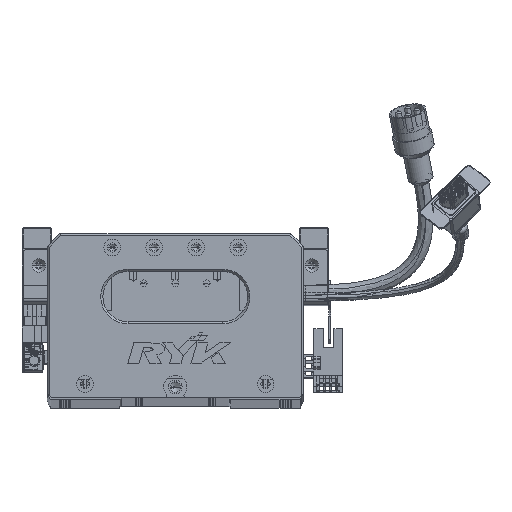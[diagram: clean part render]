
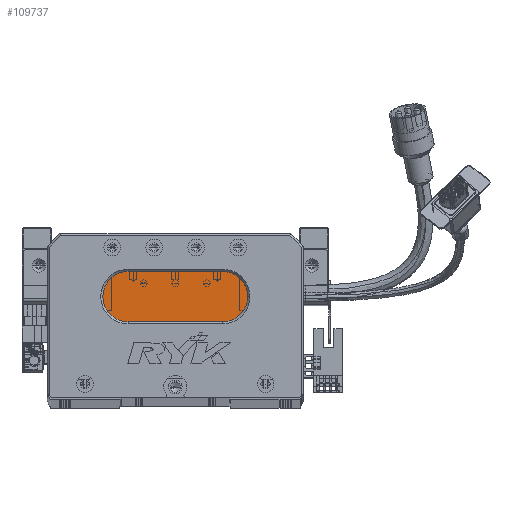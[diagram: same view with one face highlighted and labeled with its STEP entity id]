
A CAD part, top view. The second image highlights one B-rep face of the part: STEP entity #109737.
In plain terms, the highlighted planar face has unit normal (0, 0, 1) as drawn and (0, 0, -1) by its records, which use the part's own axes.
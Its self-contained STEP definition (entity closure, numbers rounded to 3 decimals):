
#667 = CARTESIAN_POINT ( 'NONE',  ( 38.5, 48., 13. ) ) ;
#2977 = LINE ( 'NONE', #42350, #107018 ) ;
#4932 = CARTESIAN_POINT ( 'NONE',  ( 83.5, 60., 13. ) ) ;
#7800 = EDGE_CURVE ( 'NONE', #73194, #104093, #11697, .T. ) ;
#9687 = AXIS2_PLACEMENT_3D ( 'NONE', #667, #92937, #28481 ) ;
#11697 = LINE ( 'NONE', #91757, #33088 ) ;
#12103 = ORIENTED_EDGE ( 'NONE', *, *, #98961, .T. ) ;
#15537 = CARTESIAN_POINT ( 'NONE',  ( 38.5, 60., 13. ) ) ;
#16505 = CARTESIAN_POINT ( 'NONE',  ( 83.5, 48., 13. ) ) ;
#17085 = CIRCLE ( 'NONE', #9687, 12. ) ;
#20340 = CARTESIAN_POINT ( 'NONE',  ( 38.5, 36., 13. ) ) ;
#22274 = AXIS2_PLACEMENT_3D ( 'NONE', #16505, #106426, #61101 ) ;
#28481 = DIRECTION ( 'NONE',  ( -1., 0., 0. ) ) ;
#31113 = EDGE_CURVE ( 'NONE', #61134, #60564, #2977, .T. ) ;
#33088 = VECTOR ( 'NONE', #83804, 1000. ) ;
#35804 = PLANE ( 'NONE',  #95800 ) ;
#36772 = VERTEX_POINT ( 'NONE', #106213 ) ;
#42350 = CARTESIAN_POINT ( 'NONE',  ( 83.5, 36., 13. ) ) ;
#42740 = DIRECTION ( 'NONE',  ( -1., 0., 0. ) ) ;
#45697 = CARTESIAN_POINT ( 'NONE',  ( 83.5, 48., 13. ) ) ;
#46278 = FACE_OUTER_BOUND ( 'NONE', #114411, .T. ) ;
#53858 = CIRCLE ( 'NONE', #22274, 12. ) ;
#54165 = CARTESIAN_POINT ( 'NONE',  ( 38.5, 48., 13. ) ) ;
#54473 = DIRECTION ( 'NONE',  ( -1., 0., 0. ) ) ;
#54848 = DIRECTION ( 'NONE',  ( 0., 0., -1. ) ) ;
#60564 = VERTEX_POINT ( 'NONE', #20340 ) ;
#61101 = DIRECTION ( 'NONE',  ( -1., 0., 0. ) ) ;
#61134 = VERTEX_POINT ( 'NONE', #67629 ) ;
#63356 = DIRECTION ( 'NONE',  ( -1., 0., 0. ) ) ;
#67187 = ORIENTED_EDGE ( 'NONE', *, *, #7800, .T. ) ;
#67629 = CARTESIAN_POINT ( 'NONE',  ( 83.5, 36., 13. ) ) ;
#73194 = VERTEX_POINT ( 'NONE', #15537 ) ;
#79343 = ORIENTED_EDGE ( 'NONE', *, *, #83807, .T. ) ;
#83262 = EDGE_CURVE ( 'NONE', #104093, #61134, #53858, .T. ) ;
#83804 = DIRECTION ( 'NONE',  ( 1., 0., 0. ) ) ;
#83807 = EDGE_CURVE ( 'NONE', #60564, #36772, #99315, .T. ) ;
#87099 = AXIS2_PLACEMENT_3D ( 'NONE', #54165, #117909, #63356 ) ;
#88818 = ORIENTED_EDGE ( 'NONE', *, *, #83262, .T. ) ;
#91492 = ORIENTED_EDGE ( 'NONE', *, *, #31113, .T. ) ;
#91757 = CARTESIAN_POINT ( 'NONE',  ( 83.5, 60., 13. ) ) ;
#92937 = DIRECTION ( 'NONE',  ( 0., 0., -1. ) ) ;
#95800 = AXIS2_PLACEMENT_3D ( 'NONE', #45697, #54848, #54473 ) ;
#98961 = EDGE_CURVE ( 'NONE', #36772, #73194, #17085, .T. ) ;
#99315 = CIRCLE ( 'NONE', #87099, 12. ) ;
#104093 = VERTEX_POINT ( 'NONE', #4932 ) ;
#106213 = CARTESIAN_POINT ( 'NONE',  ( 26.5, 48., 13. ) ) ;
#106426 = DIRECTION ( 'NONE',  ( 0., 0., -1. ) ) ;
#107018 = VECTOR ( 'NONE', #42740, 1000. ) ;
#109737 = ADVANCED_FACE ( 'NONE', ( #46278 ), #35804, .T. ) ;
#114411 = EDGE_LOOP ( 'NONE', ( #88818, #91492, #79343, #12103, #67187 ) ) ;
#117909 = DIRECTION ( 'NONE',  ( 0., 0., -1. ) ) ;
